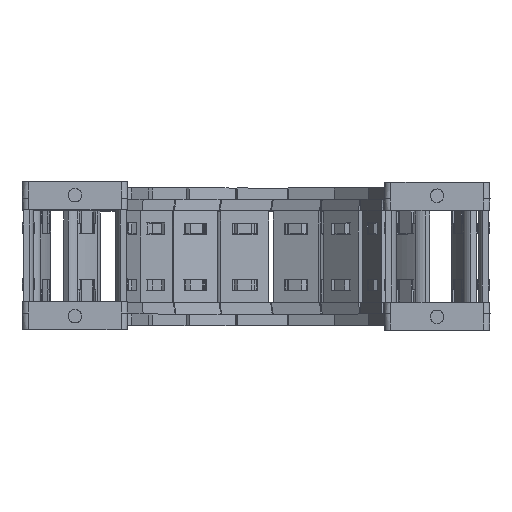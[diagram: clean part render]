
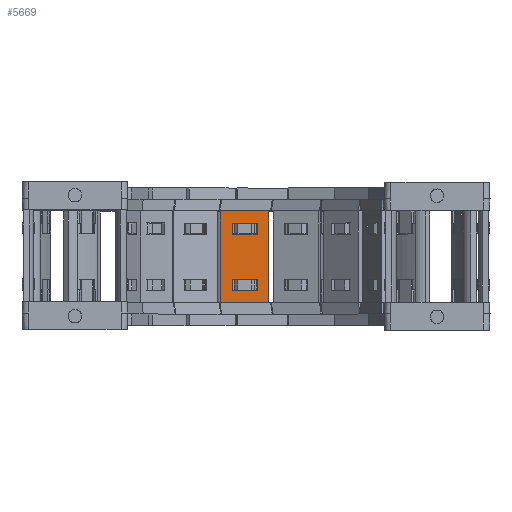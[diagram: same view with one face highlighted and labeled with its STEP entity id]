
A CAD part, top view. The second image highlights one B-rep face of the part: STEP entity #5669.
In plain terms, the highlighted planar face has unit normal (0.035, 0, 0.999) as drawn and (0, 1, 0) by its records, which use the part's own axes.
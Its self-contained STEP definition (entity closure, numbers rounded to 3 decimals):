
#5089=DIRECTION('',(0.,0.,1.));
#5090=VECTOR('',#5089,15.8);
#5091=CARTESIAN_POINT('',(15.24,1.5,-7.9));
#5092=LINE('',#5091,#5090);
#5093=DIRECTION('',(-1.,0.,0.));
#5094=VECTOR('',#5093,30.);
#5095=CARTESIAN_POINT('',(15.24,1.5,7.9));
#5096=LINE('',#5095,#5094);
#5097=DIRECTION('',(0.,0.,-1.));
#5098=VECTOR('',#5097,15.8);
#5099=CARTESIAN_POINT('',(-14.76,1.5,7.9));
#5100=LINE('',#5099,#5098);
#5101=DIRECTION('',(1.,0.,0.));
#5102=VECTOR('',#5101,3.648);
#5103=CARTESIAN_POINT('',(7.622,1.5,4.075));
#5104=LINE('',#5103,#5102);
#5105=DIRECTION('',(0.,0.,-1.));
#5106=VECTOR('',#5105,8.15);
#5107=CARTESIAN_POINT('',(11.27,1.5,4.075));
#5108=LINE('',#5107,#5106);
#5109=DIRECTION('',(-1.,0.,0.));
#5110=VECTOR('',#5109,3.648);
#5111=CARTESIAN_POINT('',(11.27,1.5,-4.075));
#5112=LINE('',#5111,#5110);
#5113=DIRECTION('',(0.,0.,-1.));
#5114=VECTOR('',#5113,8.15);
#5115=CARTESIAN_POINT('',(-7.142,1.5,4.075));
#5116=LINE('',#5115,#5114);
#5117=DIRECTION('',(-1.,0.,0.));
#5118=VECTOR('',#5117,3.648);
#5119=CARTESIAN_POINT('',(-7.142,1.5,-4.075));
#5120=LINE('',#5119,#5118);
#5121=DIRECTION('',(0.,0.,1.));
#5122=VECTOR('',#5121,8.15);
#5123=CARTESIAN_POINT('',(-10.79,1.5,-4.075));
#5124=LINE('',#5123,#5122);
#5125=DIRECTION('',(1.,0.,0.));
#5126=VECTOR('',#5125,3.648);
#5127=CARTESIAN_POINT('',(-10.79,1.5,4.075));
#5128=LINE('',#5127,#5126);
#5133=DIRECTION('',(-1.,0.,0.));
#5134=VECTOR('',#5133,30.);
#5135=CARTESIAN_POINT('',(15.24,1.5,-7.9));
#5136=LINE('',#5135,#5134);
#5254=DIRECTION('',(0.,0.,-1.));
#5255=VECTOR('',#5254,8.15);
#5256=CARTESIAN_POINT('',(7.622,1.5,4.075));
#5257=LINE('',#5256,#5255);
#5439=CARTESIAN_POINT('',(11.27,1.5,4.075));
#5440=VERTEX_POINT('',#5439);
#5441=CARTESIAN_POINT('',(7.622,1.5,4.075));
#5442=VERTEX_POINT('',#5441);
#5483=CARTESIAN_POINT('',(7.622,1.5,-4.075));
#5484=VERTEX_POINT('',#5483);
#5485=CARTESIAN_POINT('',(11.27,1.5,-4.075));
#5486=VERTEX_POINT('',#5485);
#5487=CARTESIAN_POINT('',(15.24,1.5,7.9));
#5489=VERTEX_POINT('',#5487);
#5491=CARTESIAN_POINT('',(15.24,1.5,-7.9));
#5492=VERTEX_POINT('',#5491);
#5515=CARTESIAN_POINT('',(-7.142,1.5,4.075));
#5516=CARTESIAN_POINT('',(-7.142,1.5,-4.075));
#5517=VERTEX_POINT('',#5515);
#5518=VERTEX_POINT('',#5516);
#5519=CARTESIAN_POINT('',(-10.79,1.5,-4.075));
#5520=VERTEX_POINT('',#5519);
#5521=CARTESIAN_POINT('',(-10.79,1.5,4.075));
#5522=VERTEX_POINT('',#5521);
#5523=CARTESIAN_POINT('',(-14.76,1.5,7.9));
#5524=VERTEX_POINT('',#5523);
#5527=CARTESIAN_POINT('',(-14.76,1.5,-7.9));
#5528=VERTEX_POINT('',#5527);
#5638=CARTESIAN_POINT('',(46.98,1.5,10.061));
#5639=DIRECTION('',(0.,-1.,0.));
#5640=DIRECTION('',(0.,0.,-1.));
#5641=AXIS2_PLACEMENT_3D('',#5638,#5639,#5640);
#5642=PLANE('',#5641);
#5643=ORIENTED_EDGE('',*,*,#5577,.T.);
#5644=ORIENTED_EDGE('',*,*,#5603,.T.);
#5645=ORIENTED_EDGE('',*,*,#5616,.T.);
#5647=ORIENTED_EDGE('',*,*,#5646,.F.);
#5648=EDGE_LOOP('',(#5643,#5644,#5645,#5647));
#5649=FACE_OUTER_BOUND('',#5648,.F.);
#5651=ORIENTED_EDGE('',*,*,#5650,.F.);
#5652=ORIENTED_EDGE('',*,*,#5540,.T.);
#5654=ORIENTED_EDGE('',*,*,#5653,.T.);
#5656=ORIENTED_EDGE('',*,*,#5655,.T.);
#5657=EDGE_LOOP('',(#5651,#5652,#5654,#5656));
#5658=FACE_BOUND('',#5657,.F.);
#5660=ORIENTED_EDGE('',*,*,#5659,.T.);
#5662=ORIENTED_EDGE('',*,*,#5661,.T.);
#5664=ORIENTED_EDGE('',*,*,#5663,.T.);
#5666=ORIENTED_EDGE('',*,*,#5665,.T.);
#5667=EDGE_LOOP('',(#5660,#5662,#5664,#5666));
#5668=FACE_BOUND('',#5667,.F.);
#5669=ADVANCED_FACE('',(#5649,#5658,#5668),#5642,.F.);
#5540=EDGE_CURVE('',#5442,#5440,#5104,.T.);
#5577=EDGE_CURVE('',#5492,#5489,#5092,.T.);
#5603=EDGE_CURVE('',#5489,#5524,#5096,.T.);
#5616=EDGE_CURVE('',#5524,#5528,#5100,.T.);
#5646=EDGE_CURVE('',#5492,#5528,#5136,.T.);
#5650=EDGE_CURVE('',#5442,#5484,#5257,.T.);
#5653=EDGE_CURVE('',#5440,#5486,#5108,.T.);
#5655=EDGE_CURVE('',#5486,#5484,#5112,.T.);
#5659=EDGE_CURVE('',#5517,#5518,#5116,.T.);
#5661=EDGE_CURVE('',#5518,#5520,#5120,.T.);
#5663=EDGE_CURVE('',#5520,#5522,#5124,.T.);
#5665=EDGE_CURVE('',#5522,#5517,#5128,.T.);
